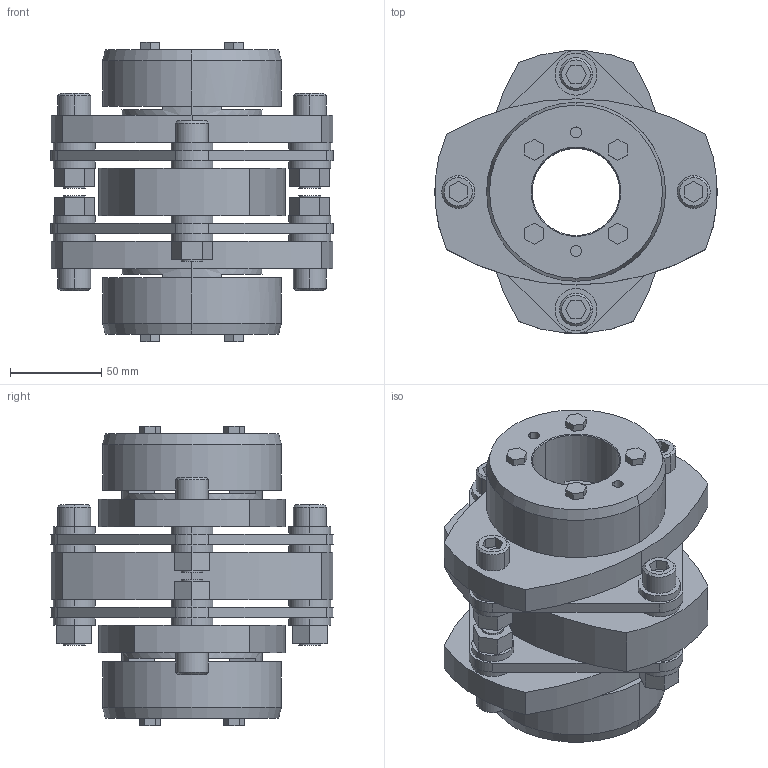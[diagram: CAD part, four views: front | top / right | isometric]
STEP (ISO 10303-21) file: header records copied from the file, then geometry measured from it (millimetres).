
FILE_DESCRIPTION((''),'2;1');
FILE_NAME('LCD-155T7-48×48.stp','2015-10-28T09:23:50',(''),(''),'AutoCAD STEP 2000i','AutoCAD 2000i',', , ');
FILE_SCHEMA(('CONFIG_CONTROL_DESIGN'));
Length unit declared in the file: millimetre
Products named in the file (7): LCD-155T7-50×50; 忣兜1; LC155T7-T050-1; LC155T7-T050; LC155T7-T045-1; LC155T7-T045; LCD155-ITA
Assembly tree (6 placements, depth 2):
  LCD-155T7-50×50
    忣兜1
    LC155T7-T050-1
    LC155T7-T050
    LC155T7-T045-1
    LC155T7-T045
    LCD155-ITA
Bounding box: 155 x 154.9 x 164 mm (x, y, z)
Volume: 1174241.8 mm3; surface area: 208767 mm2
Topology: 1 solids, 1 shells, 334 faces, 818 edges, 538 vertices
Faces by surface type: plane 190, cylinder 120, cone 24
Entity records: 10099 total; most frequent: DIRECTION 1782, CARTESIAN_POINT 1697, ORIENTED_EDGE 1636, EDGE_CURVE 818, AXIS2_PLACEMENT_3D 623, VERTEX_POINT 538, VECTOR 536, LINE 536
